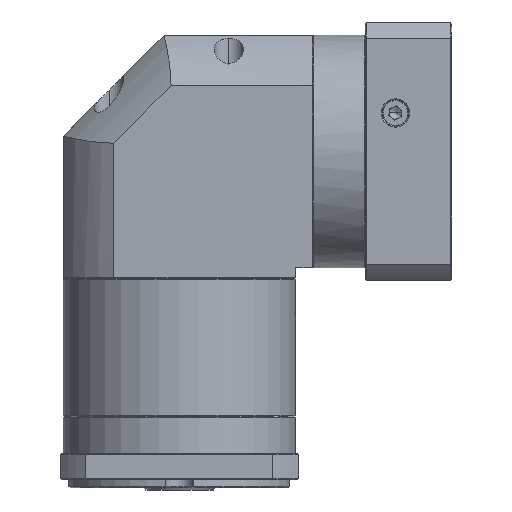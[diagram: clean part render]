
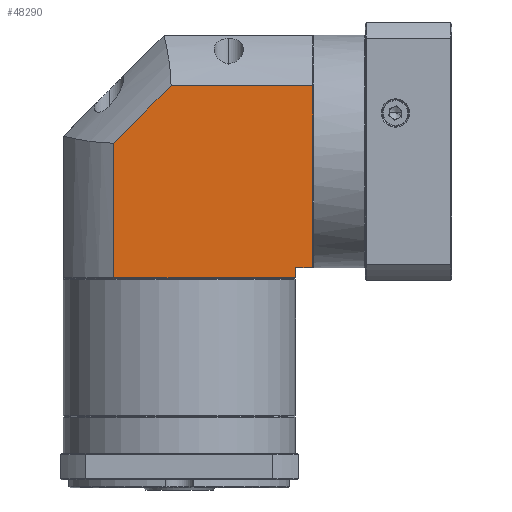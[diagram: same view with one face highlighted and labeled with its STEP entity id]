
A CAD part, front view. The second image highlights one B-rep face of the part: STEP entity #48290.
In plain terms, the highlighted planar face has unit normal (0, -1, 0).
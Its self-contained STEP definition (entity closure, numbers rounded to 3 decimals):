
#124 = CARTESIAN_POINT ( 'NONE',  ( 93.813, 1.133, -71.627 ) ) ;
#8499 = LINE ( 'NONE', #124, #117059 ) ;
#8642 = ORIENTED_EDGE ( 'NONE', *, *, #16349, .F. ) ;
#10100 = AXIS2_PLACEMENT_3D ( 'NONE', #40797, #49946, #20977 ) ;
#12994 = VECTOR ( 'NONE', #73317, 1000. ) ;
#16349 = EDGE_CURVE ( 'NONE', #117656, #112582, #33523, .T. ) ;
#17087 = VECTOR ( 'NONE', #85740, 1000. ) ;
#19902 = LINE ( 'NONE', #89991, #89795 ) ;
#20908 = EDGE_CURVE ( 'NONE', #74141, #67920, #115388, .T. ) ;
#20977 = DIRECTION ( 'NONE',  ( 1., 0., 0. ) ) ;
#21670 = CARTESIAN_POINT ( 'NONE',  ( 23.851, 1.133, 29.773 ) ) ;
#24672 = VERTEX_POINT ( 'NONE', #46322 ) ;
#28611 = ORIENTED_EDGE ( 'NONE', *, *, #74693, .F. ) ;
#33523 = LINE ( 'NONE', #121913, #100320 ) ;
#40797 = CARTESIAN_POINT ( 'NONE',  ( -29.587, 1.133, -71.627 ) ) ;
#42128 = CARTESIAN_POINT ( 'NONE',  ( -29.587, 1.133, -60.127 ) ) ;
#43413 = DIRECTION ( 'NONE',  ( -1., 0., 0. ) ) ;
#43943 = ORIENTED_EDGE ( 'NONE', *, *, #59234, .F. ) ;
#46245 = CARTESIAN_POINT ( 'NONE',  ( -29.587, 1.133, -65.127 ) ) ;
#46322 = CARTESIAN_POINT ( 'NONE',  ( -4.487, 1.133, 1.435 ) ) ;
#48290 = ADVANCED_FACE ( 'NONE', ( #94956 ), #109351, .F. ) ;
#48802 = CARTESIAN_POINT ( 'NONE',  ( 93.813, 1.133, -60.127 ) ) ;
#49725 = VERTEX_POINT ( 'NONE', #61500 ) ;
#49796 = VERTEX_POINT ( 'NONE', #110018 ) ;
#49946 = DIRECTION ( 'NONE',  ( 0., 1., 0. ) ) ;
#54960 = DIRECTION ( 'NONE',  ( -1., 0., 0. ) ) ;
#56851 = LINE ( 'NONE', #46245, #123475 ) ;
#59234 = EDGE_CURVE ( 'NONE', #49725, #49796, #56851, .T. ) ;
#61500 = CARTESIAN_POINT ( 'NONE',  ( 85.413, 1.133, -65.127 ) ) ;
#65768 = LINE ( 'NONE', #72893, #12994 ) ;
#67920 = VERTEX_POINT ( 'NONE', #115286 ) ;
#70516 = EDGE_CURVE ( 'NONE', #112582, #74141, #8499, .T. ) ;
#71570 = EDGE_LOOP ( 'NONE', ( #28611, #122748, #79368, #8642, #95903, #118101, #43943 ) ) ;
#72893 = CARTESIAN_POINT ( 'NONE',  ( -4.487, 1.133, -71.627 ) ) ;
#73317 = DIRECTION ( 'NONE',  ( 0., 0., 1. ) ) ;
#73390 = EDGE_CURVE ( 'NONE', #24672, #117656, #19902, .T. ) ;
#74141 = VERTEX_POINT ( 'NONE', #48802 ) ;
#74693 = EDGE_CURVE ( 'NONE', #67920, #49725, #80740, .T. ) ;
#79368 = ORIENTED_EDGE ( 'NONE', *, *, #70516, .F. ) ;
#80740 = LINE ( 'NONE', #106807, #17087 ) ;
#85740 = DIRECTION ( 'NONE',  ( 0., 0., -1. ) ) ;
#87695 = EDGE_CURVE ( 'NONE', #49796, #24672, #65768, .T. ) ;
#88694 = DIRECTION ( 'NONE',  ( 0.707, 0., 0.707 ) ) ;
#89519 = DIRECTION ( 'NONE',  ( 0., 0., -1. ) ) ;
#89795 = VECTOR ( 'NONE', #88694, 1000. ) ;
#89991 = CARTESIAN_POINT ( 'NONE',  ( -4.487, 1.133, 1.435 ) ) ;
#92775 = CARTESIAN_POINT ( 'NONE',  ( 93.813, 1.133, 29.773 ) ) ;
#94956 = FACE_OUTER_BOUND ( 'NONE', #71570, .T. ) ;
#95903 = ORIENTED_EDGE ( 'NONE', *, *, #73390, .F. ) ;
#100320 = VECTOR ( 'NONE', #102492, 1000. ) ;
#102492 = DIRECTION ( 'NONE',  ( 1., 0., 0. ) ) ;
#106807 = CARTESIAN_POINT ( 'NONE',  ( 85.413, 1.133, -71.627 ) ) ;
#109351 = PLANE ( 'NONE',  #10100 ) ;
#110018 = CARTESIAN_POINT ( 'NONE',  ( -4.487, 1.133, -65.127 ) ) ;
#112582 = VERTEX_POINT ( 'NONE', #92775 ) ;
#115286 = CARTESIAN_POINT ( 'NONE',  ( 85.413, 1.133, -60.127 ) ) ;
#115388 = LINE ( 'NONE', #42128, #127740 ) ;
#117059 = VECTOR ( 'NONE', #89519, 1000. ) ;
#117656 = VERTEX_POINT ( 'NONE', #21670 ) ;
#118101 = ORIENTED_EDGE ( 'NONE', *, *, #87695, .F. ) ;
#121913 = CARTESIAN_POINT ( 'NONE',  ( -29.587, 1.133, 29.773 ) ) ;
#122748 = ORIENTED_EDGE ( 'NONE', *, *, #20908, .F. ) ;
#123475 = VECTOR ( 'NONE', #54960, 1000. ) ;
#127740 = VECTOR ( 'NONE', #43413, 1000. ) ;
